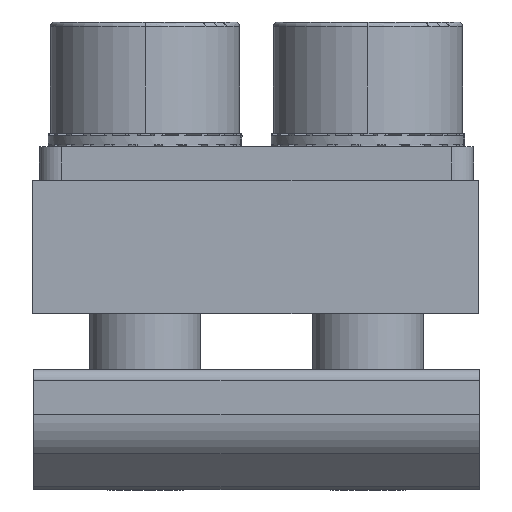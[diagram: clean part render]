
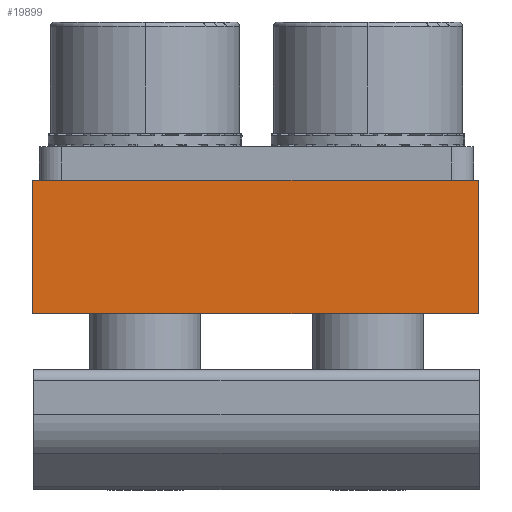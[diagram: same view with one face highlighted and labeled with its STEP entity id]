
A CAD part, front view. The second image highlights one B-rep face of the part: STEP entity #19899.
In plain terms, the highlighted planar face has unit normal (0, -1, 0).
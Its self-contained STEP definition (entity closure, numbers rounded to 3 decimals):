
#492 = DIRECTION ( 'NONE',  ( 1., 0., 0. ) ) ;
#635 = CARTESIAN_POINT ( 'NONE',  ( -77.306, -13.532, 22.233 ) ) ;
#782 = ORIENTED_EDGE ( 'NONE', *, *, #13348, .F. ) ;
#895 = VERTEX_POINT ( 'NONE', #8782 ) ;
#1681 = EDGE_CURVE ( 'NONE', #895, #18731, #19269, .T. ) ;
#3768 = DIRECTION ( 'NONE',  ( 0., 0., 1. ) ) ;
#4133 = CARTESIAN_POINT ( 'NONE',  ( -67.306, -13.532, 16.233 ) ) ;
#4587 = ORIENTED_EDGE ( 'NONE', *, *, #18498, .T. ) ;
#4798 = VECTOR ( 'NONE', #12624, 1000. ) ;
#4849 = LINE ( 'NONE', #12557, #19810 ) ;
#5073 = AXIS2_PLACEMENT_3D ( 'NONE', #20570, #21054, #3768 ) ;
#5413 = FACE_OUTER_BOUND ( 'NONE', #12068, .T. ) ;
#6372 = DIRECTION ( 'NONE',  ( 1., 0., 0. ) ) ;
#8259 = LINE ( 'NONE', #12093, #17726 ) ;
#8782 = CARTESIAN_POINT ( 'NONE',  ( -77.306, -13.532, 16.233 ) ) ;
#9344 = PLANE ( 'NONE',  #5073 ) ;
#11383 = DIRECTION ( 'NONE',  ( 0., 0., 1. ) ) ;
#12068 = EDGE_LOOP ( 'NONE', ( #22137, #782, #18235, #4587 ) ) ;
#12093 = CARTESIAN_POINT ( 'NONE',  ( -67.306, -13.532, 22.233 ) ) ;
#12124 = CARTESIAN_POINT ( 'NONE',  ( -57.306, -13.532, 22.233 ) ) ;
#12557 = CARTESIAN_POINT ( 'NONE',  ( -77.306, -13.532, 19.233 ) ) ;
#12624 = DIRECTION ( 'NONE',  ( 0., 0., 1. ) ) ;
#13348 = EDGE_CURVE ( 'NONE', #895, #20428, #4849, .T. ) ;
#14551 = VERTEX_POINT ( 'NONE', #12124 ) ;
#15702 = EDGE_CURVE ( 'NONE', #20428, #14551, #8259, .T. ) ;
#16421 = CARTESIAN_POINT ( 'NONE',  ( -57.306, -13.532, 19.233 ) ) ;
#17726 = VECTOR ( 'NONE', #6372, 1000. ) ;
#18235 = ORIENTED_EDGE ( 'NONE', *, *, #1681, .T. ) ;
#18498 = EDGE_CURVE ( 'NONE', #18731, #14551, #22192, .T. ) ;
#18707 = CARTESIAN_POINT ( 'NONE',  ( -57.306, -13.532, 16.233 ) ) ;
#18731 = VERTEX_POINT ( 'NONE', #18707 ) ;
#19269 = LINE ( 'NONE', #4133, #24841 ) ;
#19810 = VECTOR ( 'NONE', #11383, 1000. ) ;
#19899 = ADVANCED_FACE ( 'NONE', ( #5413 ), #9344, .F. ) ;
#20428 = VERTEX_POINT ( 'NONE', #635 ) ;
#20570 = CARTESIAN_POINT ( 'NONE',  ( -77.306, -13.532, 16.233 ) ) ;
#21054 = DIRECTION ( 'NONE',  ( 0., 1., 0. ) ) ;
#22137 = ORIENTED_EDGE ( 'NONE', *, *, #15702, .F. ) ;
#22192 = LINE ( 'NONE', #16421, #4798 ) ;
#24841 = VECTOR ( 'NONE', #492, 1000. ) ;
